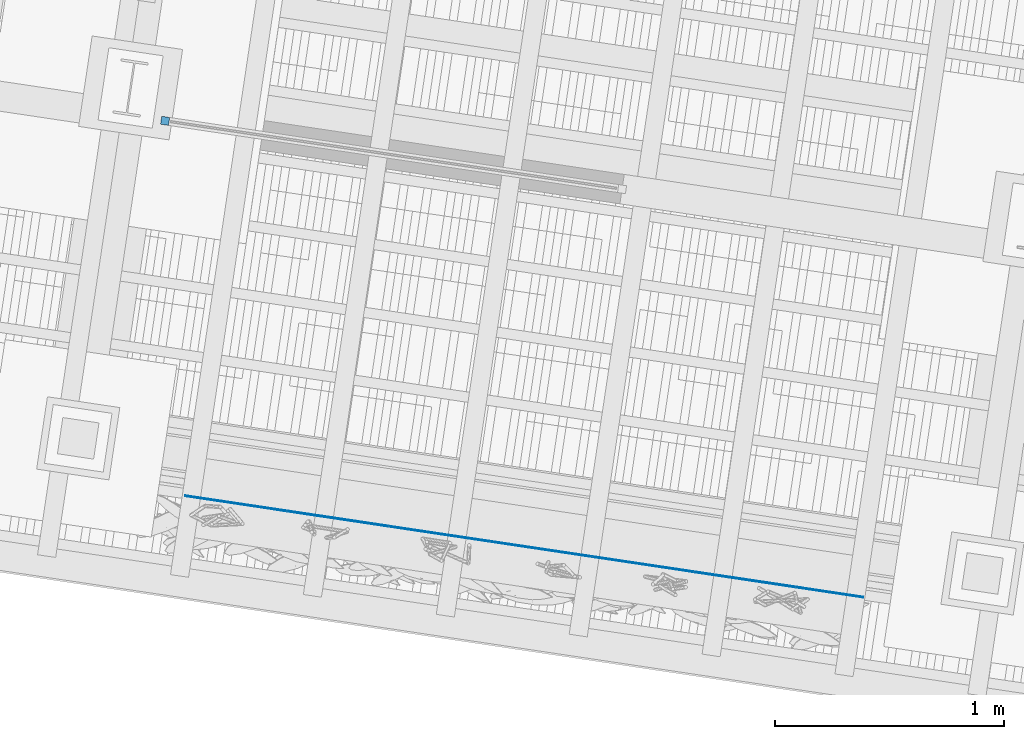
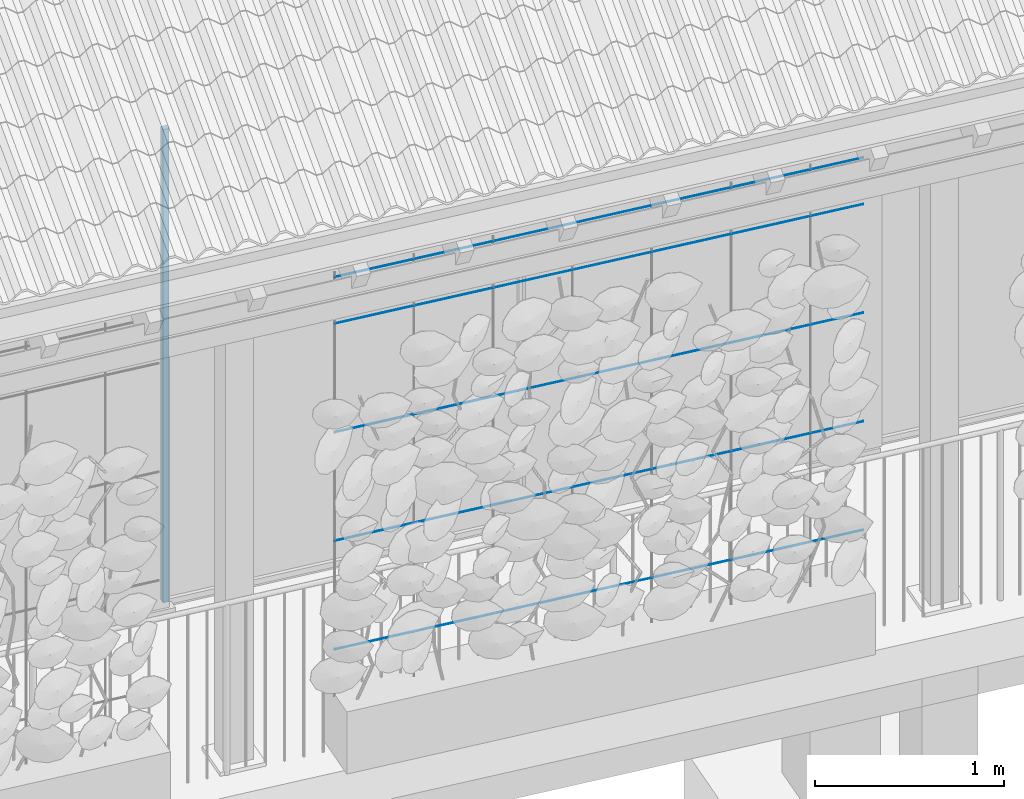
# One storey, part 75 of 131: 6 members, 1 element without a shape of its own.
"""IFC4 building model written with IfcOpenShell, lengths in metres."""

from ifc_helpers import new_model, si_unit, direction, frame, origin_with_axes, place, context, subcontext, project, spatial, rectangle, circle, extrude, material, material_profile, profile_set, profile_usage, type_object, element, aggregate, save


model = new_model("IFC4")

# Units and contexts
model_context = context("Model", 3, precision=1e-05, world=origin_with_axes(), true_north=direction((0.0, 1.0)))
body_context = subcontext(model_context, "Body", "Model", "MODEL_VIEW")
ifc_project = project(units=[si_unit("VOLUMEUNIT", "CUBIC_METRE"), si_unit("LENGTHUNIT", "METRE"), si_unit("AREAUNIT", "SQUARE_METRE")], contexts=[model_context])

# Site, building, storey
site_placement = place(None, origin_with_axes())
site = spatial("IfcSite", under=ifc_project, at=site_placement, Name="Lares · Rua das Mercês · artigo 4771")
building_placement = place(site_placement, frame((15.0, 9.7, 15.8), z_axis=(0.0, 0.0, 1.0), x_axis=(0.989015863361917, -0.147809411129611, 0.0)))
building = spatial("IfcBuilding", under=site, at=building_placement, Name="Casa Sobreposta")
storey_placement = place(building_placement, origin_with_axes())
storey = spatial("IfcBuildingStorey", under=building, at=storey_placement, Name="00 · Habitação e estacionamento", Elevation=15.8)

# Member
ifc_material_1 = material(Name="Aço pintado / Stahl lackiert", Category="steel")
ifc_material_profile_1 = material_profile(ifc_material_1, rectangle(XDim=0.035, YDim=0.035))
ifc_profile_set_1 = profile_set([ifc_material_profile_1], Name="R0.035")
ifc_profile_usage_1 = profile_usage(ifc_profile_set_1)
member_type_1 = type_object("IfcMemberType", Name="R0.035 / steel", PredefinedType="NOTDEFINED", material=ifc_profile_set_1)
member_1_placement = place(storey_placement, frame((16.1706666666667, 0.0, 0.0), z_axis=(0.0, 0.0, 1.0), x_axis=(1.0, 0.0, 0.0)))
element("IfcMember", 1, at=member_1_placement, inside=storey, type_object=member_type_1, material=ifc_profile_usage_1, Name="Folha de correr sul 8 · montante", context=body_context, shape_type="SweptSolid", body=[
    extrude(rectangle(XDim=0.035, YDim=0.035), origin_with_axes(), (0.0, 0.0, 1.0), 3.05),
])

# Assembly, members
assembly_placement = place(storey_placement, origin_with_axes())
assembly = element("IfcElementAssembly", 2, at=assembly_placement, inside=storey, Name="Fachada sul e pátio · estrutura e trepadeiras", ObjectType="LIVING_SHADE_TRELLIS", PredefinedType="USERDEFINED")
ifc_material_2 = material(Name="Aço galvanizado / Stahl verzinkt", Category="steel")
ifc_material_profile_2 = material_profile(ifc_material_2, circle(Radius=0.002))
ifc_profile_set_2 = profile_set([ifc_material_profile_2], Name="D0.004")
ifc_profile_usage_2 = profile_usage(ifc_profile_set_2)
member_type_2 = type_object("IfcMemberType", Name="D0.004 / galvanized", PredefinedType="NOTDEFINED", material=ifc_profile_set_2)
member_2_placement = place(assembly_placement, frame((16.5, -1.61, 0.65), z_axis=(1.0, 0.0, 0.0), x_axis=(0.0, -1.0, 0.0)))
member_2 = element("IfcMember", 3, at=member_2_placement, type_object=member_type_2, material=ifc_profile_usage_2, Name="Trepadeiras · fio horizontal", context=body_context, shape_type="SweptSolid", body=[
    extrude(circle(Radius=0.002), origin_with_axes(), (0.0, 0.0, 1.0), 3.0),
])
ifc_profile_usage_3 = profile_usage(ifc_profile_set_2)
member_3_placement = place(assembly_placement, frame((16.5, -1.61, 1.35), z_axis=(1.0, 0.0, 0.0), x_axis=(0.0, -1.0, 0.0)))
member_3 = element("IfcMember", 4, at=member_3_placement, type_object=member_type_2, material=ifc_profile_usage_3, Name="Trepadeiras · fio horizontal", context=body_context, shape_type="SweptSolid", body=[
    extrude(circle(Radius=0.002), origin_with_axes(), (0.0, 0.0, 1.0), 3.0),
])
ifc_profile_usage_4 = profile_usage(ifc_profile_set_2)
member_4_placement = place(assembly_placement, frame((16.5, -1.61, 2.05), z_axis=(1.0, 0.0, 0.0), x_axis=(0.0, -1.0, 0.0)))
member_4 = element("IfcMember", 5, at=member_4_placement, type_object=member_type_2, material=ifc_profile_usage_4, Name="Trepadeiras · fio horizontal", context=body_context, shape_type="SweptSolid", body=[
    extrude(circle(Radius=0.002), origin_with_axes(), (0.0, 0.0, 1.0), 3.0),
])
ifc_profile_usage_5 = profile_usage(ifc_profile_set_2)
member_5_placement = place(assembly_placement, frame((16.5, -1.61, 2.75), z_axis=(1.0, 0.0, 0.0), x_axis=(0.0, -1.0, 0.0)))
member_5 = element("IfcMember", 6, at=member_5_placement, type_object=member_type_2, material=ifc_profile_usage_5, Name="Trepadeiras · fio horizontal", context=body_context, shape_type="SweptSolid", body=[
    extrude(circle(Radius=0.002), origin_with_axes(), (0.0, 0.0, 1.0), 3.0),
])
ifc_profile_usage_6 = profile_usage(ifc_profile_set_2)
member_6_placement = place(assembly_placement, frame((16.5, -1.61, 3.05), z_axis=(1.0, 0.0, 0.0), x_axis=(0.0, -1.0, 0.0)))
member_6 = element("IfcMember", 7, at=member_6_placement, type_object=member_type_2, material=ifc_profile_usage_6, Name="Trepadeiras · fio horizontal", context=body_context, shape_type="SweptSolid", body=[
    extrude(circle(Radius=0.002), origin_with_axes(), (0.0, 0.0, 1.0), 3.0),
])
aggregate(assembly, [member_2, member_3, member_4, member_5, member_6])

save(model, "model.ifc")
